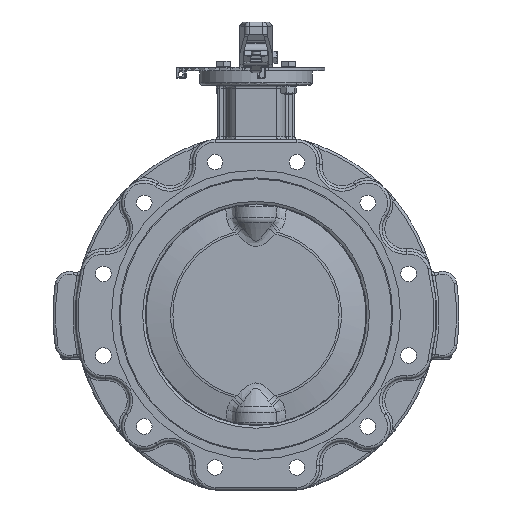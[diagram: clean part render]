
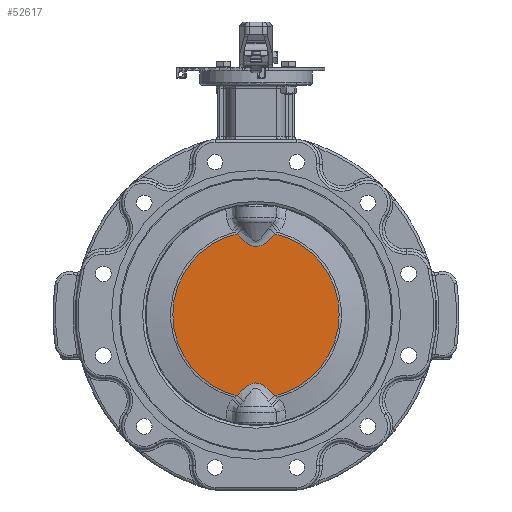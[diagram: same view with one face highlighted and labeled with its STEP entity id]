
A CAD part, left-side view. The second image highlights one B-rep face of the part: STEP entity #52617.
In plain terms, the highlighted planar face has unit normal (-1, 0, 0).
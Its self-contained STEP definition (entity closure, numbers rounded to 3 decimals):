
#52558=CARTESIAN_POINT('',(-11.0,0.0,46.669));
#52559=DIRECTION('',(-1.0,0.0,0.0));
#52560=DIRECTION('',(0.0,0.0,1.0));
#52561=AXIS2_PLACEMENT_3D('',#52558,#52559,#52560);
#52562=PLANE('',#52561);
#52563=CARTESIAN_POINT('',(-11.0,-20.992,-89.652));
#52564=VERTEX_POINT('',#52563);
#52565=CARTESIAN_POINT('',(-11.0,20.992,-89.652));
#52566=VERTEX_POINT('',#52565);
#52567=CARTESIAN_POINT('',(-11.0,-20.992,-89.652));
#52568=CARTESIAN_POINT('',(-11.0,-19.383,-87.774));
#52569=CARTESIAN_POINT('',(-11.0,-16.049,-84.109));
#52570=CARTESIAN_POINT('',(-11.0,-10.483,-79.164));
#52571=CARTESIAN_POINT('',(-11.0,-4.977,-76.101));
#52572=CARTESIAN_POINT('',(-11.0,-0.008,-75.371));
#52573=CARTESIAN_POINT('',(-11.0,3.705,-75.911));
#52574=CARTESIAN_POINT('',(-11.0,7.169,-77.323));
#52575=CARTESIAN_POINT('',(-11.0,11.388,-79.966));
#52576=CARTESIAN_POINT('',(-11.0,16.015,-84.08));
#52577=CARTESIAN_POINT('',(-11.0,19.383,-87.774));
#52578=CARTESIAN_POINT('',(-11.0,20.992,-89.652));
#52579=B_SPLINE_CURVE_WITH_KNOTS('',3,(#52567,#52568,#52569,#52570,#52571,#52572,#52573,#52574,#52575,#52576,#52577,#52578),.UNSPECIFIED.,.F.,.U.,(4,1,1,1,1,1,1,1,1,4),(-5.194,-4.452,-3.71,-2.968,-2.597,-2.226,-1.855,-1.484,-0.742,0.0),.UNSPECIFIED.);
#52580=EDGE_CURVE('',#52564,#52566,#52579,.T.);
#52581=ORIENTED_EDGE('',*,*,#52580,.F.);
#52582=CARTESIAN_POINT('',(-11.0,-20.992,89.652));
#52583=VERTEX_POINT('',#52582);
#52584=CARTESIAN_POINT('',(-11.0,0.0,0.));
#52585=DIRECTION('',(1.0,0.0,0.0));
#52586=DIRECTION('',(0.0,-1.0,0.0));
#52587=AXIS2_PLACEMENT_3D('',#52584,#52585,#52586);
#52588=CIRCLE('',#52587,92.077);
#52589=EDGE_CURVE('',#52583,#52564,#52588,.T.);
#52590=ORIENTED_EDGE('',*,*,#52589,.F.);
#52591=CARTESIAN_POINT('',(-11.0,20.992,89.652));
#52592=VERTEX_POINT('',#52591);
#52593=CARTESIAN_POINT('',(-11.0,20.992,89.652));
#52594=CARTESIAN_POINT('',(-11.0,19.383,87.774));
#52595=CARTESIAN_POINT('',(-11.0,16.049,84.109));
#52596=CARTESIAN_POINT('',(-11.0,10.483,79.164));
#52597=CARTESIAN_POINT('',(-11.0,4.977,76.101));
#52598=CARTESIAN_POINT('',(-11.0,0.008,75.371));
#52599=CARTESIAN_POINT('',(-11.0,-3.705,75.911));
#52600=CARTESIAN_POINT('',(-11.0,-7.169,77.323));
#52601=CARTESIAN_POINT('',(-11.0,-11.388,79.966));
#52602=CARTESIAN_POINT('',(-11.0,-16.015,84.08));
#52603=CARTESIAN_POINT('',(-11.0,-19.383,87.774));
#52604=CARTESIAN_POINT('',(-11.0,-20.992,89.652));
#52605=B_SPLINE_CURVE_WITH_KNOTS('',3,(#52593,#52594,#52595,#52596,#52597,#52598,#52599,#52600,#52601,#52602,#52603,#52604),.UNSPECIFIED.,.F.,.U.,(4,1,1,1,1,1,1,1,1,4),(-5.194,-4.452,-3.71,-2.968,-2.597,-2.226,-1.855,-1.484,-0.742,0.0),.UNSPECIFIED.);
#52606=EDGE_CURVE('',#52592,#52583,#52605,.T.);
#52607=ORIENTED_EDGE('',*,*,#52606,.F.);
#52608=CARTESIAN_POINT('',(-11.0,0.0,0.));
#52609=DIRECTION('',(1.0,0.0,0.0));
#52610=DIRECTION('',(0.0,1.0,0.0));
#52611=AXIS2_PLACEMENT_3D('',#52608,#52609,#52610);
#52612=CIRCLE('',#52611,92.077);
#52613=EDGE_CURVE('',#52566,#52592,#52612,.T.);
#52614=ORIENTED_EDGE('',*,*,#52613,.F.);
#52615=EDGE_LOOP('',(#52581,#52590,#52607,#52614));
#52616=FACE_OUTER_BOUND('',#52615,.T.);
#52617=ADVANCED_FACE('',(#52616),#52562,.T.);
